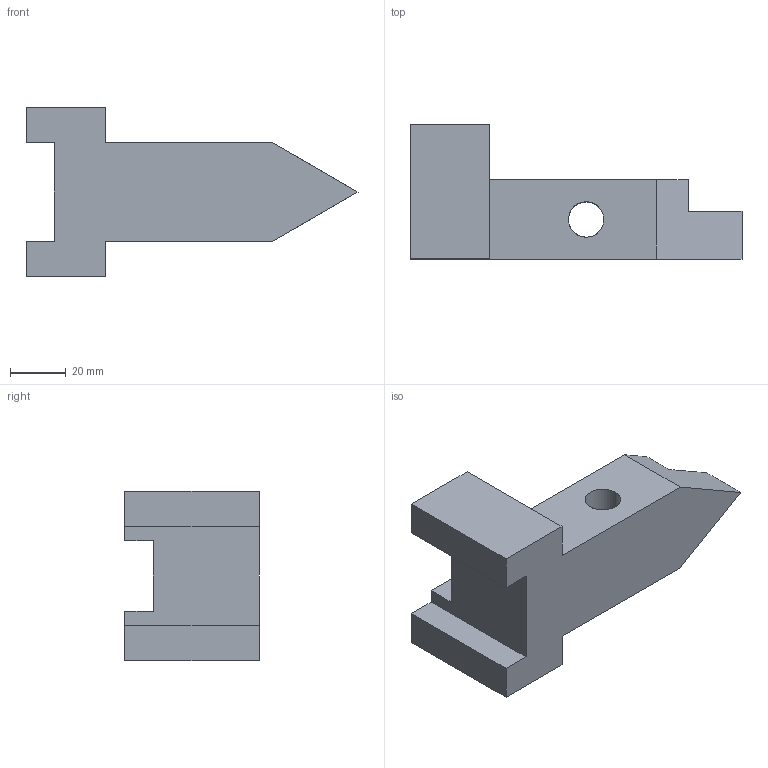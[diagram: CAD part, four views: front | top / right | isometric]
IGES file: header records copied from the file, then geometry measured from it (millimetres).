
Start section: SolidWorks IGES FILE using analytic representation for surfaces
Global section: file name: Y:\CONTENTCENTRAL\653\cache\65DEFAU06142003132443.igs; native system: SolidWorks 2003 by SolidWorks Corporation; preprocessor: Version 5.3; author: PartStream; date: 030614.133302; units: inch
Bounding box: 119.38 x 48.26 x 60.96 mm (x, y, z)
Surface area: 22933 mm2 (no closed solid volume)
Topology: 0 solids, 0 shells, 23 faces, 186 edges, 186 vertices
Faces by surface type: bspline 21, revolution 2
